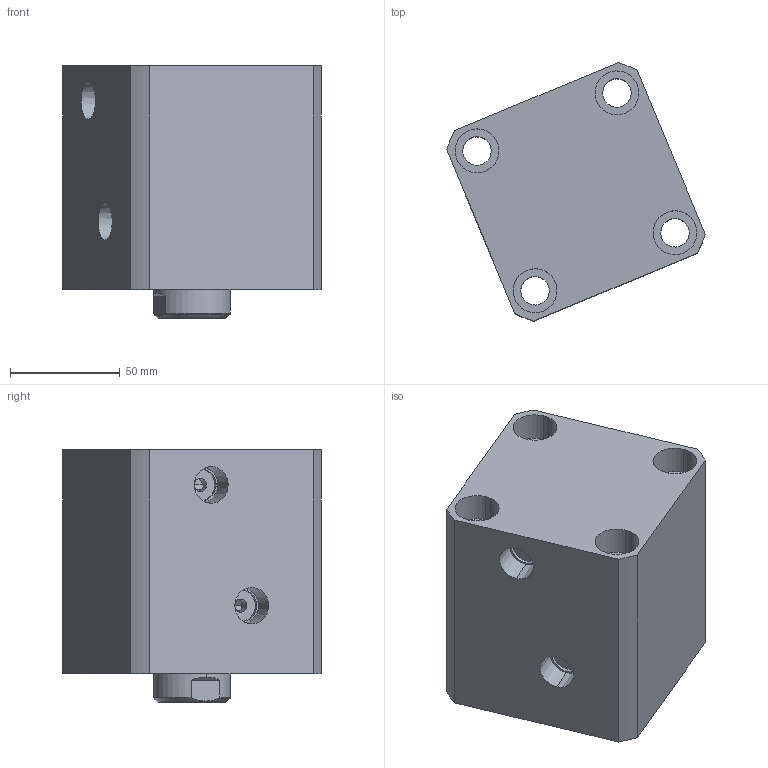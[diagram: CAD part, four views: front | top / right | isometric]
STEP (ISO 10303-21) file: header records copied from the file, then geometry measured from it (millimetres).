
FILE_DESCRIPTION (( 'STEP AP214' ), '1' );
FILE_NAME ('chtb-sd63x35n_asm.STEP', '2018-05-09T01:48:29', ( 'Windows' ), ( 'Microsoft' ), 'SwSTEP 2.0', 'SolidWorks 2015', '' );
FILE_SCHEMA (( 'AUTOMOTIVE_DESIGN' ));
Length unit declared in the file: millimetre
Products named in the file (4): chtb-sd63x35n_asm; CHTB63X35NHSG; CHTB63X35NBT; CHTB-63QG
Assembly tree (3 placements, depth 2):
  chtb-sd63x35n_asm
    CHTB-63QG
    CHTB63X35NBT
    CHTB63X35NHSG
Bounding box: 117.81 x 117.81 x 115 mm (x, y, z)
Volume: 742357.4 mm3; surface area: 132047.9 mm2
Topology: 3 solids, 3 shells, 165 faces, 465 edges, 318 vertices
Faces by surface type: cylinder 101, plane 33, bspline 12, cone 12, torus 7
Entity records: 17638 total; most frequent: CARTESIAN_POINT 13505, ORIENTED_EDGE 918, DIRECTION 719, EDGE_CURVE 459, VERTEX_POINT 318, AXIS2_PLACEMENT_3D 291, EDGE_LOOP 197, ADVANCED_FACE 165
